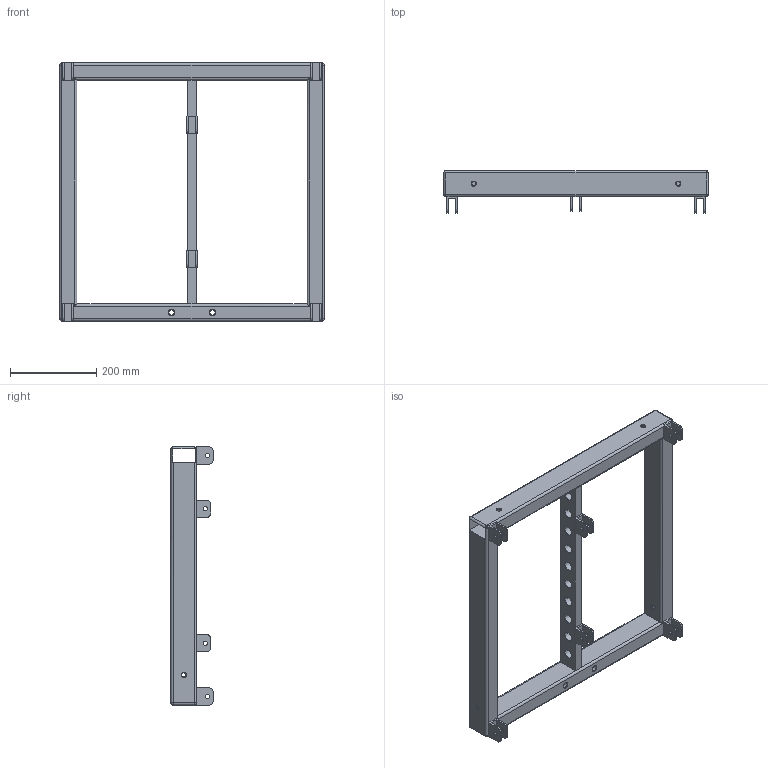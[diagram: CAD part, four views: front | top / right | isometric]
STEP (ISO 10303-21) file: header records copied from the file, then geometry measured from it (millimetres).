
FILE_DESCRIPTION (( 'STEP AP203' ), '1' );
FILE_NAME ('Seeburg_Galeo-Cradle.STEP', '2012-10-17T09:00:13', ( 'Fabian' ), ( '' ), 'SwSTEP 2.0', 'SolidWorks 2009', '' );
FILE_SCHEMA (( 'CONFIG_CONTROL_DESIGN' ));
Length unit declared in the file: millimetre
Products named in the file (2): Cradle_GALEO; Seeburg_Galeo-Cradle
Assembly tree (1 placements, depth 2):
  Seeburg_Galeo-Cradle
    Cradle_GALEO
Bounding box: 615 x 98 x 600.01 mm (x, y, z)
Volume: 3019034.1 mm3; surface area: 843229.3 mm2
Topology: 1 solids, 1 shells, 277 faces, 758 edges, 478 vertices
Faces by surface type: cylinder 108, plane 94, cone 64, sphere 11
Entity records: 9089 total; most frequent: DIRECTION 1598, CARTESIAN_POINT 1583, ORIENTED_EDGE 1504, EDGE_CURVE 752, AXIS2_PLACEMENT_3D 590, VERTEX_POINT 475, VECTOR 418, LINE 418
